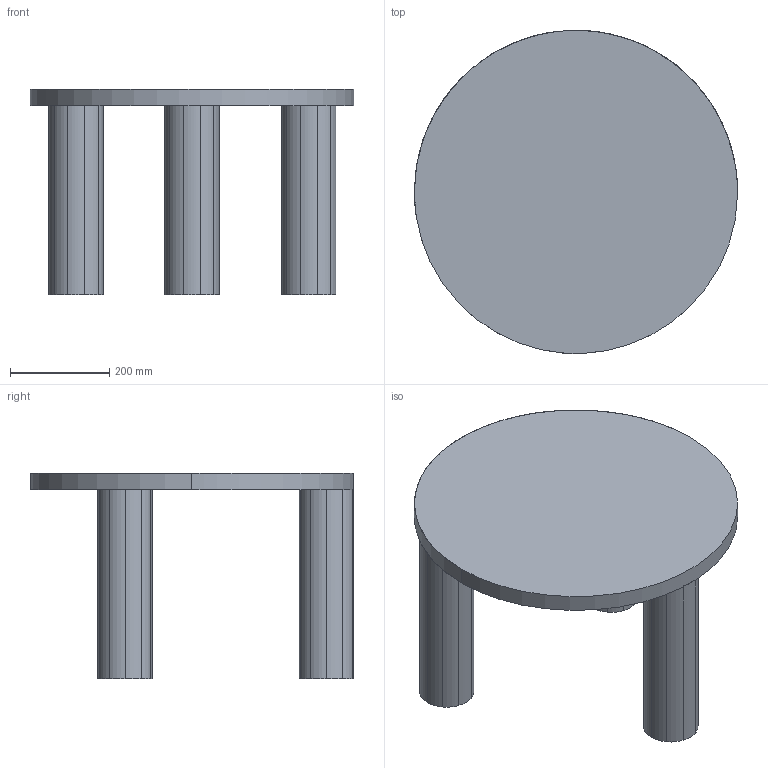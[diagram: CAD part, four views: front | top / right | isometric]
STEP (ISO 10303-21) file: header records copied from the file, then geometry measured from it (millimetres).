
FILE_DESCRIPTION(/* description */ (''),/* implementation_level */ '2;1');
FILE_NAME(/* name */ 'Post Coffee Table_Small_3D',/* time_stamp */ '2021-05-03T13:36:05+02:00',/* author */ (''),/* organization */ (''),/* preprocessor_version */ 'ST-DEVELOPER v16.5',/* originating_system */ '',/* authorisation */ '');
FILE_SCHEMA (('CONFIG_CONTROL_DESIGN'));
Length unit declared in the file: millimetre
Products named in the file (1): Document
Bounding box: 650 x 649.76 x 414 mm (x, y, z)
Volume: 9143322.6 mm3; surface area: 1922002.4 mm2
Topology: 12 solids, 45 shells, 343 faces, 935 edges, 630 vertices
Faces by surface type: cylinder 215, plane 104, bspline 24
Entity records: 39127 total; most frequent: CARTESIAN_POINT 33239, ORIENTED_EDGE 1612, EDGE_CURVE 929, VERTEX_POINT 618, B_SPLINE_CURVE_WITH_KNOTS 534, EDGE_LOOP 355, ADVANCED_FACE 343, FACE_OUTER_BOUND 343
